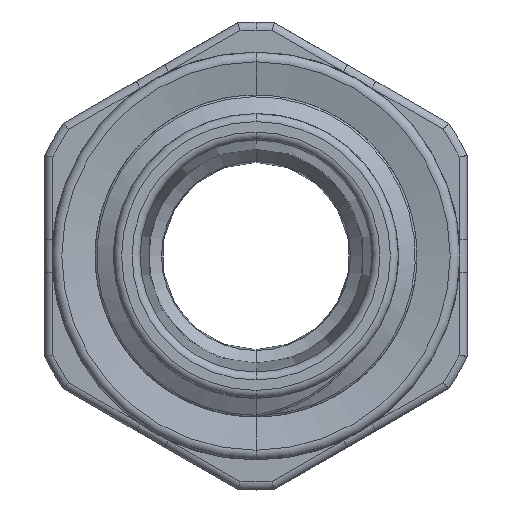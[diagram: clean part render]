
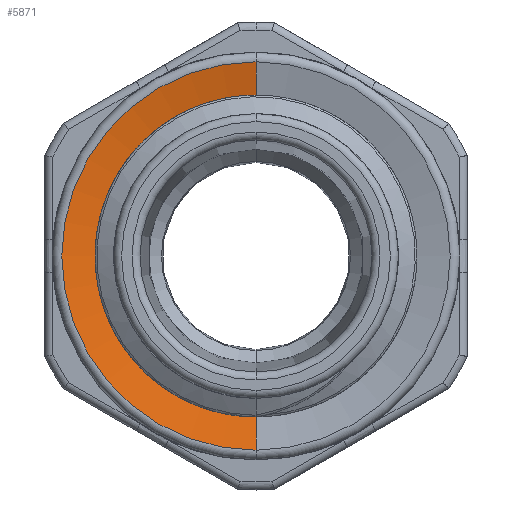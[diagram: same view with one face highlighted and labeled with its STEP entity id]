
A CAD part, front view. The second image highlights one B-rep face of the part: STEP entity #5871.
In plain terms, the highlighted conical face has half-angle 77.735 degrees and reference radius 7.625 mm.
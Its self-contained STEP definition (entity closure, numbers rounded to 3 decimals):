
#172 = VECTOR ( 'NONE', #12380, 1000. ) ;
#914 = EDGE_LOOP ( 'NONE', ( #5464, #8317, #12756, #8624 ) ) ;
#949 = DIRECTION ( 'NONE',  ( 0., 0., 1. ) ) ;
#2899 = EDGE_CURVE ( 'NONE', #11163, #9724, #14210, .T. ) ;
#2917 = CARTESIAN_POINT ( 'NONE',  ( 0., 8.079, 7.261 ) ) ;
#3982 = CARTESIAN_POINT ( 'NONE',  ( 0., 8., 7.625 ) ) ;
#4615 = AXIS2_PLACEMENT_3D ( 'NONE', #11899, #14540, #7154 ) ;
#5464 = ORIENTED_EDGE ( 'NONE', *, *, #9799, .F. ) ;
#5871 = ADVANCED_FACE ( 'NONE', ( #15649 ), #11454, .F. ) ;
#6349 = CARTESIAN_POINT ( 'NONE',  ( 0., 8., -7.625 ) ) ;
#7154 = DIRECTION ( 'NONE',  ( 0., 0., -1. ) ) ;
#7302 = LINE ( 'NONE', #6349, #172 ) ;
#7512 = DIRECTION ( 'NONE',  ( 0., -1., 0. ) ) ;
#7556 = VERTEX_POINT ( 'NONE', #13628 ) ;
#7887 = VECTOR ( 'NONE', #8820, 1000. ) ;
#8317 = ORIENTED_EDGE ( 'NONE', *, *, #10720, .T. ) ;
#8462 = CARTESIAN_POINT ( 'NONE',  ( 0., 8.368, 0. ) ) ;
#8545 = DIRECTION ( 'NONE',  ( 0., 0., -1. ) ) ;
#8624 = ORIENTED_EDGE ( 'NONE', *, *, #9580, .F. ) ;
#8820 = DIRECTION ( 'NONE',  ( 0., -0.212, 0.977 ) ) ;
#9053 = CIRCLE ( 'NONE', #9806, 5.931 ) ;
#9580 = EDGE_CURVE ( 'NONE', #7556, #9724, #7302, .T. ) ;
#9724 = VERTEX_POINT ( 'NONE', #13664 ) ;
#9799 = EDGE_CURVE ( 'NONE', #10692, #7556, #9053, .T. ) ;
#9806 = AXIS2_PLACEMENT_3D ( 'NONE', #8462, #7512, #8545 ) ;
#10012 = CARTESIAN_POINT ( 'NONE',  ( 0., 8.368, 5.931 ) ) ;
#10638 = DIRECTION ( 'NONE',  ( 0., -1., 0. ) ) ;
#10692 = VERTEX_POINT ( 'NONE', #10012 ) ;
#10720 = EDGE_CURVE ( 'NONE', #10692, #11163, #13358, .T. ) ;
#11163 = VERTEX_POINT ( 'NONE', #2917 ) ;
#11454 = CONICAL_SURFACE ( 'NONE', #4615, 7.625, 1.357 ) ;
#11665 = AXIS2_PLACEMENT_3D ( 'NONE', #14078, #10638, #949 ) ;
#11899 = CARTESIAN_POINT ( 'NONE',  ( 0., 8., 0. ) ) ;
#12380 = DIRECTION ( 'NONE',  ( 0., -0.212, -0.977 ) ) ;
#12756 = ORIENTED_EDGE ( 'NONE', *, *, #2899, .T. ) ;
#13358 = LINE ( 'NONE', #3982, #7887 ) ;
#13628 = CARTESIAN_POINT ( 'NONE',  ( 0., 8.368, -5.931 ) ) ;
#13664 = CARTESIAN_POINT ( 'NONE',  ( 0., 8.079, -7.261 ) ) ;
#14078 = CARTESIAN_POINT ( 'NONE',  ( 0., 8.079, 0. ) ) ;
#14210 = CIRCLE ( 'NONE', #11665, 7.261 ) ;
#14540 = DIRECTION ( 'NONE',  ( 0., -1., 0. ) ) ;
#15649 = FACE_OUTER_BOUND ( 'NONE', #914, .T. ) ;
